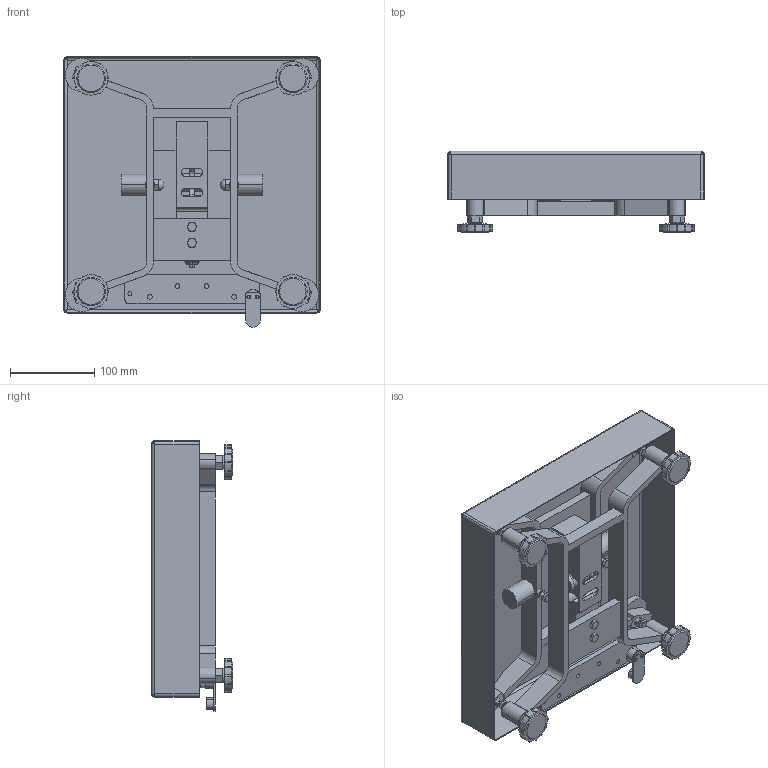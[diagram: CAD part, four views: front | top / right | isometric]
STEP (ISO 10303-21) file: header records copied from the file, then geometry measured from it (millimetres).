
FILE_DESCRIPTION((''),'2;1');
FILE_NAME('PLATFORM_PBA43X_QB_NO_HYGIENIC','2022-03-18T09:48:11',('fu-34'),(''),'CREO PARAMETRIC BY PTC INC, 2018260','CREO PARAMETRIC BY PTC INC, 2018260','');
FILE_SCHEMA(('CONFIG_CONTROL_DESIGN','SHAPE_APPEARANCE_LAYERS_GROUPS'));
Length unit declared in the file: millimetre
Products named in the file (1): PLATFORM_PBA43X_QB_NO_HYGIENIC
Bounding box: 304.9 x 96.6 x 321.78 mm (x, y, z)
Volume: 855476.5 mm3; surface area: 573513.7 mm2
Topology: 16 solids, 75 shells, 1494 faces, 3585 edges, 2235 vertices
Faces by surface type: plane 578, cylinder 534, cone 328, torus 42, bspline 8, sphere 4
Entity records: 52231 total; most frequent: CARTESIAN_POINT 10698, DIRECTION 7299, ORIENTED_EDGE 6926, EDGE_CURVE 3541, AXIS2_PLACEMENT_3D 2885, VERTEX_POINT 2235, EDGE_LOOP 1652, VECTOR 1529
